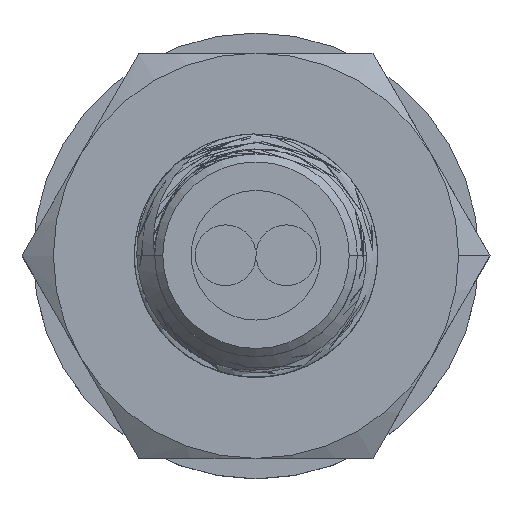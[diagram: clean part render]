
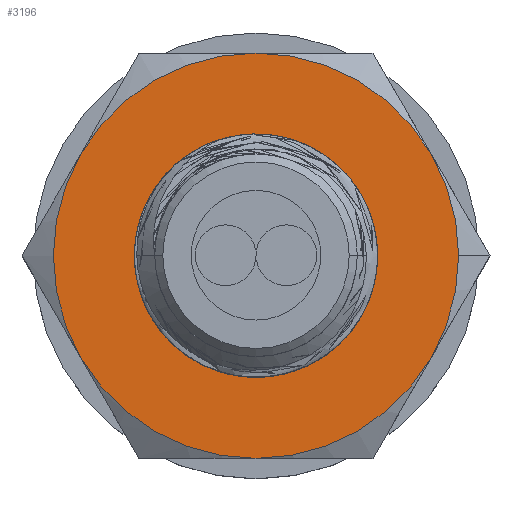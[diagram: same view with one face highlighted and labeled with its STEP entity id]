
A CAD part, top view. The second image highlights one B-rep face of the part: STEP entity #3196.
In plain terms, the highlighted planar face has unit normal (0, 0, 1).
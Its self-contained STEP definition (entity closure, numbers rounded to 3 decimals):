
#45 = CARTESIAN_POINT ( 'NONE',  ( -6.021, 7.861, 6.275 ) ) ;
#88 = CARTESIAN_POINT ( 'NONE',  ( -7.2, 9.384, 6.275 ) ) ;
#122 = DIRECTION ( 'NONE',  ( 0., 0., 1. ) ) ;
#130 = EDGE_CURVE ( 'NONE', #7827, #9930, #1488, .T. ) ;
#202 = CARTESIAN_POINT ( 'NONE',  ( -6.954, 8.849, 6.275 ) ) ;
#358 = B_SPLINE_CURVE_WITH_KNOTS ( 'NONE', 3,
 ( #9036, #88, #5586, #202, #5429, #8089, #9890, #4523, #45, #6328, #6414, #5471, #7343, #10018, #6372, #8133, #9120, #5510 ),
 .UNSPECIFIED., .F., .F.,
 ( 4, 2, 2, 2, 2, 2, 2, 2, 4 ),
 ( 0., 0.001, 0.001, 0.002, 0.002, 0.003, 0.004, 0.004, 0.005 ),
 .UNSPECIFIED. ) ;
#414 = DIRECTION ( 'NONE',  ( 0., 0., 1. ) ) ;
#435 = CARTESIAN_POINT ( 'NONE',  ( -7.252, 9.575, 6.275 ) ) ;
#577 = CARTESIAN_POINT ( 'NONE',  ( -8.688, 12.865, 6.275 ) ) ;
#884 = EDGE_LOOP ( 'NONE', ( #6674, #5228, #5579, #4727, #4643 ) ) ;
#1131 = EDGE_CURVE ( 'NONE', #9930, #4237, #8092, .T. ) ;
#1230 = DIRECTION ( 'NONE',  ( 0., -1., 0. ) ) ;
#1245 = VERTEX_POINT ( 'NONE', #6877 ) ;
#1488 = CIRCLE ( 'NONE', #8081, 5. ) ;
#1595 = FACE_OUTER_BOUND ( 'NONE', #5526, .T. ) ;
#1748 = AXIS2_PLACEMENT_3D ( 'NONE', #11019, #3746, #2869 ) ;
#1795 = AXIS2_PLACEMENT_3D ( 'NONE', #8651, #9598, #9558 ) ;
#2145 = DIRECTION ( 'NONE',  ( 0., 0., 1. ) ) ;
#2334 = CARTESIAN_POINT ( 'NONE',  ( -4.358, 10.365, 6.275 ) ) ;
#2356 = CIRCLE ( 'NONE', #1748, 5. ) ;
#2449 = ORIENTED_EDGE ( 'NONE', *, *, #10383, .T. ) ;
#2574 = CIRCLE ( 'NONE', #7280, 2.994 ) ;
#2713 = CARTESIAN_POINT ( 'NONE',  ( -4.358, 15.365, 6.275 ) ) ;
#2844 = CARTESIAN_POINT ( 'NONE',  ( -7.268, 9.659, 6.275 ) ) ;
#2850 = EDGE_CURVE ( 'NONE', #9241, #7628, #2574, .T. ) ;
#2869 = DIRECTION ( 'NONE',  ( 0., -1., 0. ) ) ;
#3052 = B_SPLINE_CURVE_WITH_KNOTS ( 'NONE', 3,
 ( #9504, #11357, #7848, #7771 ),
 .UNSPECIFIED., .F., .F.,
 ( 4, 4 ),
 ( 0., 0. ),
 .UNSPECIFIED. ) ;
#3053 = EDGE_CURVE ( 'NONE', #10209, #7492, #8618, .T. ) ;
#3196 = ADVANCED_FACE ( 'NONE', ( #3999, #1595 ), #5310, .T. ) ;
#3236 = VERTEX_POINT ( 'NONE', #6323 ) ;
#3666 = ORIENTED_EDGE ( 'NONE', *, *, #1131, .T. ) ;
#3746 = DIRECTION ( 'NONE',  ( 0., 0., 1. ) ) ;
#3774 = CIRCLE ( 'NONE', #4670, 5. ) ;
#3883 = DIRECTION ( 'NONE',  ( 0., 0., 1. ) ) ;
#3922 = CIRCLE ( 'NONE', #10991, 5. ) ;
#3999 = FACE_BOUND ( 'NONE', #884, .T. ) ;
#4030 = AXIS2_PLACEMENT_3D ( 'NONE', #2334, #5024, #5787 ) ;
#4237 = VERTEX_POINT ( 'NONE', #2713 ) ;
#4400 = DIRECTION ( 'NONE',  ( 0., 0., 1. ) ) ;
#4523 = CARTESIAN_POINT ( 'NONE',  ( -6.18, 7.974, 6.275 ) ) ;
#4563 = CARTESIAN_POINT ( 'NONE',  ( -4.358, 5.365, 6.275 ) ) ;
#4610 = EDGE_CURVE ( 'NONE', #7492, #3236, #358, .T. ) ;
#4643 = ORIENTED_EDGE ( 'NONE', *, *, #4610, .F. ) ;
#4670 = AXIS2_PLACEMENT_3D ( 'NONE', #10616, #122, #10257 ) ;
#4727 = ORIENTED_EDGE ( 'NONE', *, *, #8208, .F. ) ;
#4855 = ORIENTED_EDGE ( 'NONE', *, *, #5445, .T. ) ;
#4873 = ORIENTED_EDGE ( 'NONE', *, *, #11325, .T. ) ;
#5024 = DIRECTION ( 'NONE',  ( 0., 0., 1. ) ) ;
#5228 = ORIENTED_EDGE ( 'NONE', *, *, #5644, .T. ) ;
#5237 = DIRECTION ( 'NONE',  ( 0., 0., -1. ) ) ;
#5310 = PLANE ( 'NONE',  #9455 ) ;
#5390 = CARTESIAN_POINT ( 'NONE',  ( -7.252, 9.575, 6.275 ) ) ;
#5429 = CARTESIAN_POINT ( 'NONE',  ( -6.85, 8.684, 6.275 ) ) ;
#5445 = EDGE_CURVE ( 'NONE', #8073, #1245, #3922, .T. ) ;
#5455 = CIRCLE ( 'NONE', #1795, 2.994 ) ;
#5471 = CARTESIAN_POINT ( 'NONE',  ( -5.131, 7.46, 6.275 ) ) ;
#5510 = CARTESIAN_POINT ( 'NONE',  ( -3.578, 7.468, 6.275 ) ) ;
#5526 = EDGE_LOOP ( 'NONE', ( #9611, #5731, #4873, #7240, #3666, #2449, #4855 ) ) ;
#5536 = AXIS2_PLACEMENT_3D ( 'NONE', #7413, #3883, #6562 ) ;
#5579 = ORIENTED_EDGE ( 'NONE', *, *, #2850, .T. ) ;
#5586 = CARTESIAN_POINT ( 'NONE',  ( -7.129, 9.199, 6.275 ) ) ;
#5644 = EDGE_CURVE ( 'NONE', #10209, #9241, #5455, .T. ) ;
#5731 = ORIENTED_EDGE ( 'NONE', *, *, #9269, .T. ) ;
#5787 = DIRECTION ( 'NONE',  ( 0., -1., 0. ) ) ;
#5874 = EDGE_CURVE ( 'NONE', #1245, #11009, #3774, .T. ) ;
#6251 = DIRECTION ( 'NONE',  ( 0., -1., 0. ) ) ;
#6323 = CARTESIAN_POINT ( 'NONE',  ( -3.578, 7.468, 6.275 ) ) ;
#6328 = CARTESIAN_POINT ( 'NONE',  ( -5.679, 7.665, 6.275 ) ) ;
#6372 = CARTESIAN_POINT ( 'NONE',  ( -4.354, 7.359, 6.275 ) ) ;
#6414 = CARTESIAN_POINT ( 'NONE',  ( -5.5, 7.584, 6.275 ) ) ;
#6426 = CARTESIAN_POINT ( 'NONE',  ( -4.358, 13.359, 6.275 ) ) ;
#6496 = CIRCLE ( 'NONE', #5536, 5. ) ;
#6562 = DIRECTION ( 'NONE',  ( 0., -1., 0. ) ) ;
#6636 = CARTESIAN_POINT ( 'NONE',  ( -4.358, 10.365, 6.275 ) ) ;
#6674 = ORIENTED_EDGE ( 'NONE', *, *, #3053, .F. ) ;
#6722 = CARTESIAN_POINT ( 'NONE',  ( -4.358, 10.365, 6.275 ) ) ;
#6877 = CARTESIAN_POINT ( 'NONE',  ( -8.688, 7.865, 6.275 ) ) ;
#7065 = CARTESIAN_POINT ( 'NONE',  ( -3.498, 7.497, 6.275 ) ) ;
#7183 = CARTESIAN_POINT ( 'NONE',  ( -4.358, 10.365, 6.275 ) ) ;
#7192 = CARTESIAN_POINT ( 'NONE',  ( -7.263, 9.631, 6.275 ) ) ;
#7240 = ORIENTED_EDGE ( 'NONE', *, *, #130, .T. ) ;
#7280 = AXIS2_PLACEMENT_3D ( 'NONE', #10635, #5237, #9744 ) ;
#7343 = CARTESIAN_POINT ( 'NONE',  ( -4.938, 7.415, 6.275 ) ) ;
#7413 = CARTESIAN_POINT ( 'NONE',  ( -4.358, 10.365, 6.275 ) ) ;
#7492 = VERTEX_POINT ( 'NONE', #435 ) ;
#7628 = VERTEX_POINT ( 'NONE', #7065 ) ;
#7771 = CARTESIAN_POINT ( 'NONE',  ( -3.498, 7.497, 6.275 ) ) ;
#7827 = VERTEX_POINT ( 'NONE', #10854 ) ;
#7848 = CARTESIAN_POINT ( 'NONE',  ( -3.524, 7.487, 6.275 ) ) ;
#8073 = VERTEX_POINT ( 'NONE', #577 ) ;
#8081 = AXIS2_PLACEMENT_3D ( 'NONE', #10738, #10705, #6251 ) ;
#8089 = CARTESIAN_POINT ( 'NONE',  ( -6.611, 8.374, 6.275 ) ) ;
#8092 = CIRCLE ( 'NONE', #4030, 5. ) ;
#8133 = CARTESIAN_POINT ( 'NONE',  ( -3.965, 7.385, 6.275 ) ) ;
#8208 = EDGE_CURVE ( 'NONE', #3236, #7628, #3052, .T. ) ;
#8618 = B_SPLINE_CURVE_WITH_KNOTS ( 'NONE', 3,
 ( #11635, #7192, #9853, #5390 ),
 .UNSPECIFIED., .F., .F.,
 ( 4, 4 ),
 ( 0.005, 0.006 ),
 .UNSPECIFIED. ) ;
#8651 = CARTESIAN_POINT ( 'NONE',  ( -4.358, 10.365, 6.275 ) ) ;
#9036 = CARTESIAN_POINT ( 'NONE',  ( -7.252, 9.575, 6.275 ) ) ;
#9120 = CARTESIAN_POINT ( 'NONE',  ( -3.769, 7.417, 6.275 ) ) ;
#9241 = VERTEX_POINT ( 'NONE', #6426 ) ;
#9269 = EDGE_CURVE ( 'NONE', #11009, #11421, #2356, .T. ) ;
#9455 = AXIS2_PLACEMENT_3D ( 'NONE', #7183, #4400, #9931 ) ;
#9493 = CARTESIAN_POINT ( 'NONE',  ( -0.028, 7.865, 6.275 ) ) ;
#9504 = CARTESIAN_POINT ( 'NONE',  ( -3.578, 7.468, 6.275 ) ) ;
#9558 = DIRECTION ( 'NONE',  ( 0., -1., 0. ) ) ;
#9598 = DIRECTION ( 'NONE',  ( 0., 0., -1. ) ) ;
#9611 = ORIENTED_EDGE ( 'NONE', *, *, #5874, .T. ) ;
#9744 = DIRECTION ( 'NONE',  ( 0., -1., 0. ) ) ;
#9853 = CARTESIAN_POINT ( 'NONE',  ( -7.258, 9.603, 6.275 ) ) ;
#9890 = CARTESIAN_POINT ( 'NONE',  ( -6.474, 8.23, 6.275 ) ) ;
#9930 = VERTEX_POINT ( 'NONE', #11101 ) ;
#9931 = DIRECTION ( 'NONE',  ( 0., -1., 0. ) ) ;
#10018 = CARTESIAN_POINT ( 'NONE',  ( -4.549, 7.365, 6.275 ) ) ;
#10209 = VERTEX_POINT ( 'NONE', #2844 ) ;
#10257 = DIRECTION ( 'NONE',  ( -1., 0., 0. ) ) ;
#10370 = DIRECTION ( 'NONE',  ( 0., -1., 0. ) ) ;
#10383 = EDGE_CURVE ( 'NONE', #4237, #8073, #6496, .T. ) ;
#10616 = CARTESIAN_POINT ( 'NONE',  ( -4.358, 10.365, 6.275 ) ) ;
#10635 = CARTESIAN_POINT ( 'NONE',  ( -4.358, 10.365, 6.275 ) ) ;
#10705 = DIRECTION ( 'NONE',  ( 0., 0., 1. ) ) ;
#10738 = CARTESIAN_POINT ( 'NONE',  ( -4.358, 10.365, 6.275 ) ) ;
#10761 = AXIS2_PLACEMENT_3D ( 'NONE', #6722, #2145, #10370 ) ;
#10847 = CIRCLE ( 'NONE', #10761, 5. ) ;
#10854 = CARTESIAN_POINT ( 'NONE',  ( 0.642, 10.365, 6.275 ) ) ;
#10991 = AXIS2_PLACEMENT_3D ( 'NONE', #6636, #414, #1230 ) ;
#11009 = VERTEX_POINT ( 'NONE', #4563 ) ;
#11019 = CARTESIAN_POINT ( 'NONE',  ( -4.358, 10.365, 6.275 ) ) ;
#11101 = CARTESIAN_POINT ( 'NONE',  ( -0.028, 12.865, 6.275 ) ) ;
#11325 = EDGE_CURVE ( 'NONE', #11421, #7827, #10847, .T. ) ;
#11357 = CARTESIAN_POINT ( 'NONE',  ( -3.551, 7.478, 6.275 ) ) ;
#11421 = VERTEX_POINT ( 'NONE', #9493 ) ;
#11635 = CARTESIAN_POINT ( 'NONE',  ( -7.268, 9.659, 6.275 ) ) ;
